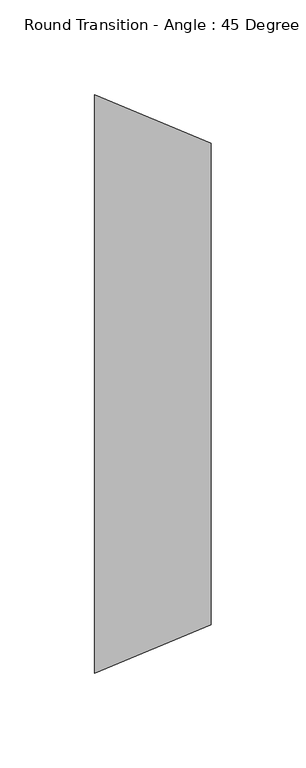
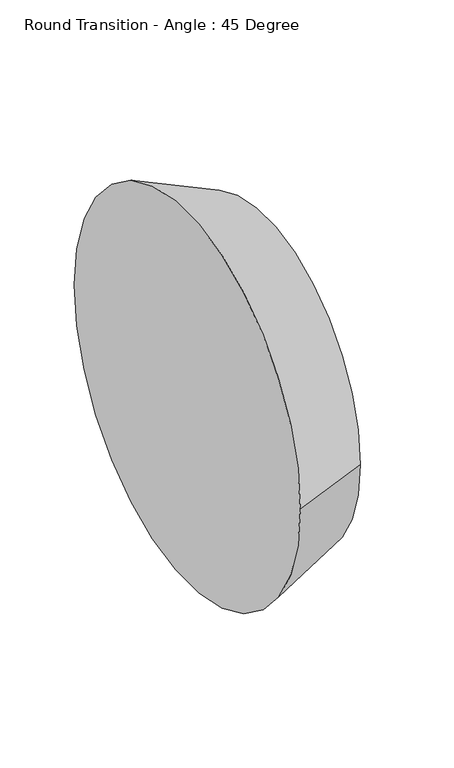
"""IFC4 building model written with IfcOpenShell, lengths in millimetres: duct fitting geometry, Round Transition - Angle : 45 Degree."""

from ifc_helpers import new_model, si_unit, frame, origin, place, context, project, spatial, polyline, circle_curve, source, transform, mapped, element, save
from ifc_brep_helpers import plane_surface, revolved_surface, advanced_brep


def round_transition_angle_45_degree_a6ab1efb(model_context):
    return source(origin(), model_context, "Body", "AdvancedBrep", [
        advanced_brep(
        [(61.3210245, -127.0, 0.0), (61.3210245, 127.0, 0.0), (0.0, -152.4, 0.0), (0.0, 152.4, 0.0)],
        [
            (0, 1, circle_curve(frame((61.3210245, 0.0, 0.0), z_axis=(1.0, 0.0, 0.0), x_axis=(0.0, -1.0, 0.0)), 127.0)),
            (1, 0, circle_curve(frame((61.3210245, 0.0, 0.0), z_axis=(1.0, 0.0, 0.0), x_axis=(0.0, 1.0, 0.0)), 127.0)),
            (2, 3, circle_curve(frame((0.0, 0.0, 0.0), z_axis=(-1.0, 0.0, 0.0), x_axis=(0.0, 1.0, 0.0)), 152.4)),
            (3, 2, circle_curve(frame((0.0, 0.0, 0.0), z_axis=(-1.0, 0.0, 0.0), x_axis=(0.0, -1.0, 0.0)), 152.4)),
            (3, 1),
            (0, 2),
        ],
        [
            plane_surface(frame((61.3210245, 0.0, 0.0), z_axis=(1.0, 0.0, 0.0), x_axis=(0.0, 0.0, -1.0))),
            plane_surface(frame((0.0, 0.0, 0.0), z_axis=(-1.0, 0.0, 0.0), x_axis=(0.0, 0.0, -1.0))),
            revolved_surface(polyline([(61.32102450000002, -126.99999999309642, 0.0), (0.0, -152.4, 0.0)]), (367.9261469, 0.0, 0.0), (-1.0, 0.0, 0.0)),
            revolved_surface(polyline([(61.32102450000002, 126.99999999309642, 0.0), (0.0, 152.4, 0.0)]), (367.9261469, 0.0, 0.0), (-1.0, 0.0, 0.0)),
        ],
        [
            (0, [[1, 2]]),
            (1, [[3, 4]]),
            (2, [[-4, 5, -1, 6]]),
            (3, [[-3, -6, -2, -5]]),
        ],
    ),
    ])


if __name__ == "__main__":
    model = new_model("IFC4")
    model_context = context("Model", 3, world=origin())
    ifc_project = project(units=[si_unit("LENGTHUNIT", "METRE", prefix="MILLI")], contexts=[model_context])
    site = spatial("IfcSite", under=ifc_project)
    building = spatial("IfcBuilding", under=site)
    placement = place(None, origin())
    round_transition_angle_45_degree_shape = round_transition_angle_45_degree_a6ab1efb(model_context)
    element("IfcDuctFitting", 1, ObjectType="Round Transition - Angle : 45 Degree", at=placement, inside=building, context=model_context, shape_type="MappedRepresentation", body=[
        mapped(round_transition_angle_45_degree_shape, transform((0.0, 0.0, 0.0), x_axis=(1.0, 0.0, 0.0), y_axis=(0.0, 1.0, 0.0), z_axis=(0.0, 0.0, 1.0))),
    ])
    save(model, "model.ifc")
